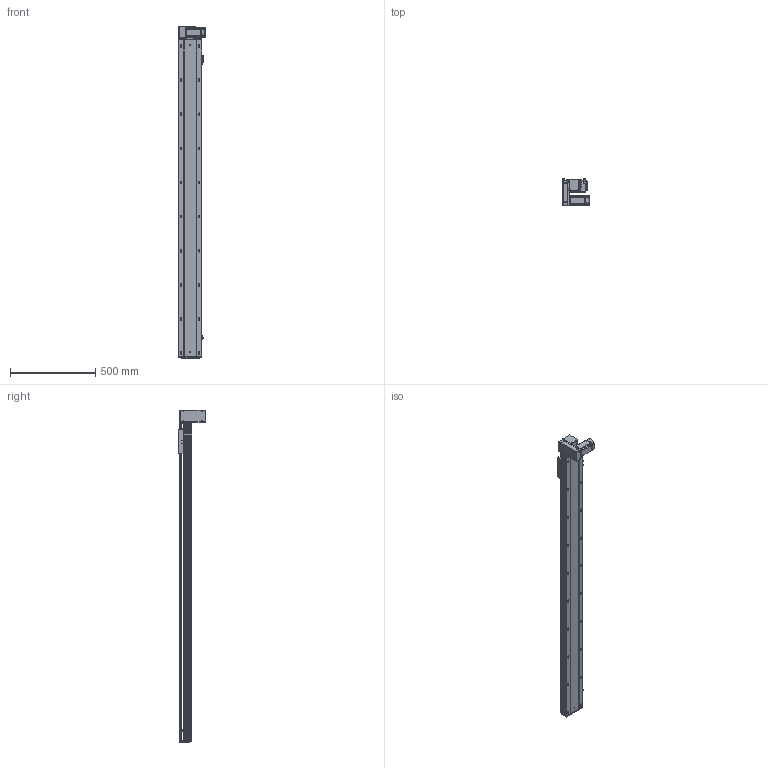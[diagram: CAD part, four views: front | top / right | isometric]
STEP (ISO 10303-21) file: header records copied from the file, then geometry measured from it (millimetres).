
FILE_DESCRIPTION (( 'STEP AP203' ), '1' );
FILE_NAME ('RY140-T-300-DL.SLDASM_1600.step', '2021-03-01T06:07:17', ( '盈信电脑' ), ( '东莞市道滘镇水果街19号' ), 'SwSTEP 2.0', 'SolidWorks 2012', '' );
FILE_SCHEMA (( 'CONFIG_CONTROL_DESIGN' ));
Length unit declared in the file: millimetre
Products named in the file (18): RY140-T翋肮謫裔啣; RY140-T-300-DL.SLDASM_1600; 滅袉蝶18-10; RY120-T主同步轮轴承压盖; RY120-T蹟翐M4; RY140-T萇儂欶; 侂狟400W侜督萇儂; 15; RY140-T翋肮祭謫盓傅釱; RY140-T萇儂假蚾啣; RY120-T肮祭湍揤踡輸2; RY120-T肮祭湍揤踡輸1; RY120外置感应片(140共用）; 覜茼ん672; RY140-T-300-DL倰第奻裔啣_1600; RY140肮祭謫臏賑輸; RY140綴裔啣; RY140-T-300-DL倰第菁釱_1600
Assembly tree (23 placements, depth 3):
  RY140-T-300-DL.SLDASM_1600
    RY140-T-300-DL倰第菁釱_1600
    RY140肮祭謫臏賑輸
    RY140-T-300-DL倰第奻裔啣_1600
    RY140綴裔啣
    覜茼ん672  x3
    RY120外置感应片(140共用）
    RY120-T肮祭湍揤踡輸2
    RY120-T肮祭湍揤踡輸1
    RY140-T翋肮祭謫盓傅釱
    RY140-T萇儂假蚾啣
    侂狟400W侜督萇儂
      15
    RY120-T主同步轮轴承压盖
    RY120-T蹟翐M4  x4
    RY140-T萇儂欶
    滅袉蝶18-10  x2
    RY140-T翋肮謫裔啣
Bounding box: 157 x 158.5 x 1946 mm (x, y, z)
Volume: 5431371.5 mm3; surface area: 2110482.2 mm2
Topology: 22 solids, 22 shells, 2814 faces, 7722 edges, 4928 vertices
Faces by surface type: plane 1389, cylinder 1063, cone 262, bspline 100
Entity records: 89028 total; most frequent: CARTESIAN_POINT 21619, ORIENTED_EDGE 13844, DIRECTION 13224, EDGE_CURVE 6922, VERTEX_POINT 4527, AXIS2_PLACEMENT_3D 4433, VECTOR 4358, LINE 4358
